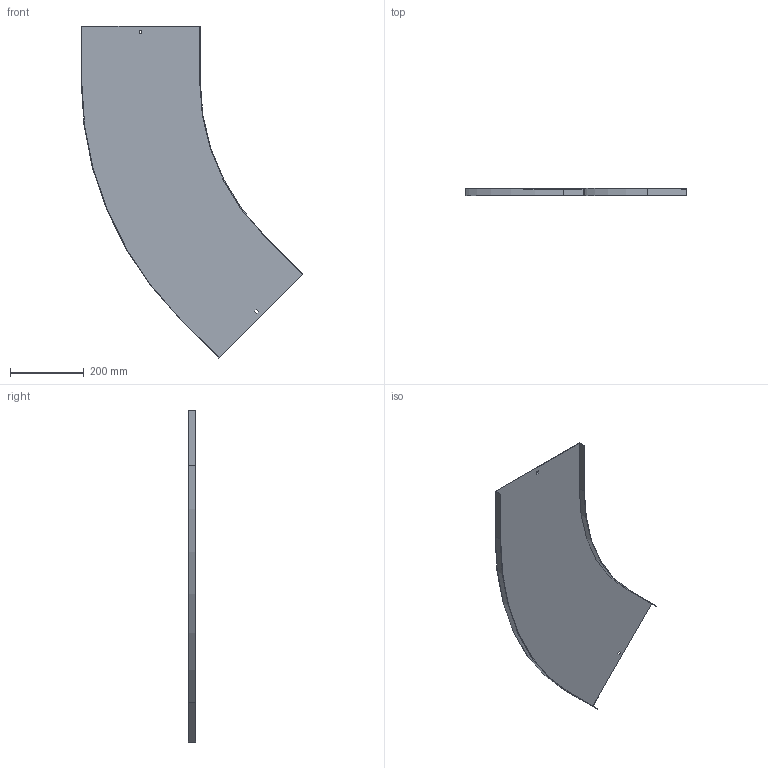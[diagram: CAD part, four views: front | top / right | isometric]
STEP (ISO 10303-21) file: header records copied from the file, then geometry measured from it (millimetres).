
FILE_DESCRIPTION (( 'STEP AP214' ), '1' );
FILE_NAME ('11N6P300.step', '2025-02-21T13:35:29', ( '' ), ( '' ), 'SwSTEP 2.0', 'SolidWorks 2023', '' );
FILE_SCHEMA (( 'AUTOMOTIVE_DESIGN' ));
Length unit declared in the file: millimetre
Products named in the file (1): 11N6P300
Bounding box: 601.43 x 20 x 900.59 mm (x, y, z)
Volume: 479910.8 mm3; surface area: 643721.2 mm2
Topology: 1 solids, 1 shells, 26 faces, 72 edges, 48 vertices
Faces by surface type: plane 22, cylinder 4
Entity records: 855 total; most frequent: CARTESIAN_POINT 147, ORIENTED_EDGE 144, DIRECTION 134, EDGE_CURVE 72, LINE 64, VECTOR 64, VERTEX_POINT 48, AXIS2_PLACEMENT_3D 35
